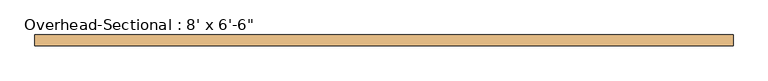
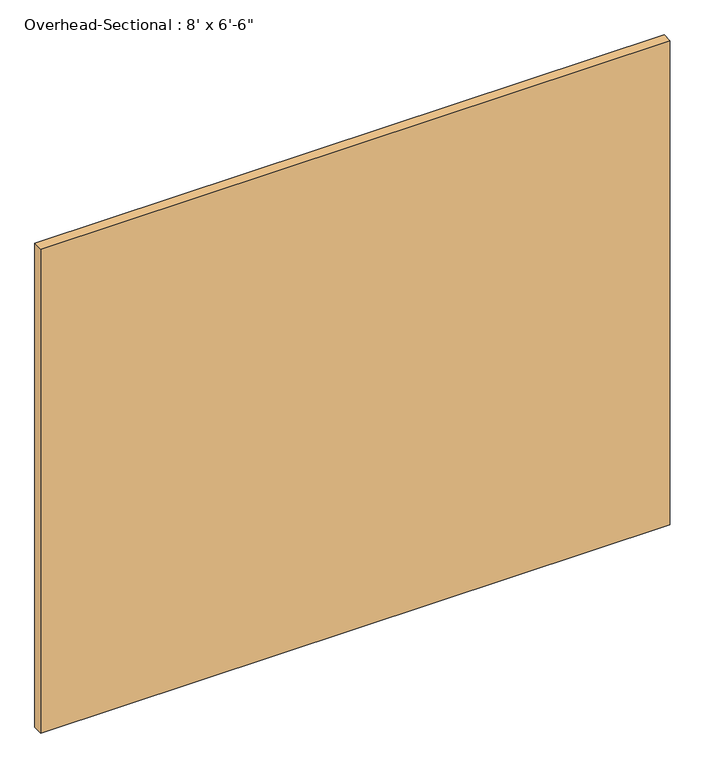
"""IFC4 building model written with IfcOpenShell, lengths in millimetres: door geometry."""

from ifc_helpers import new_model, si_unit, origin, origin_with_axes, place, context, project, spatial, polyline, outline, extrude, source, transform, mapped, element, save


def door_1b444c49(model_context):
    return source(origin(), model_context, "Body", "SweptSolid", [
        extrude(outline(polyline([(1219.2, -177.8), (1219.2, -215.9), (-1219.2, -215.9), (-1219.2, -177.8), (1219.2, -177.8)])), origin_with_axes(), (0.0, 0.0, 1.0), 1981.2),
    ])


if __name__ == "__main__":
    model = new_model("IFC4")
    model_context = context("Model", 3, world=origin())
    ifc_project = project(units=[si_unit("LENGTHUNIT", "METRE", prefix="MILLI")], contexts=[model_context])
    site = spatial("IfcSite", under=ifc_project)
    building = spatial("IfcBuilding", under=site)
    placement = place(None, origin())
    door_shape = door_1b444c49(model_context)
    element("IfcDoor", 1, ObjectType="Overhead-Sectional : 8' x 6'-6\"", at=placement, inside=building, context=model_context, shape_type="MappedRepresentation", body=[
        mapped(door_shape, transform((0.0, 0.0, 0.0), x_axis=(1.0, 0.0, 0.0), y_axis=(0.0, 1.0, 0.0), z_axis=(0.0, 0.0, 1.0))),
    ])
    save(model, "model.ifc")
